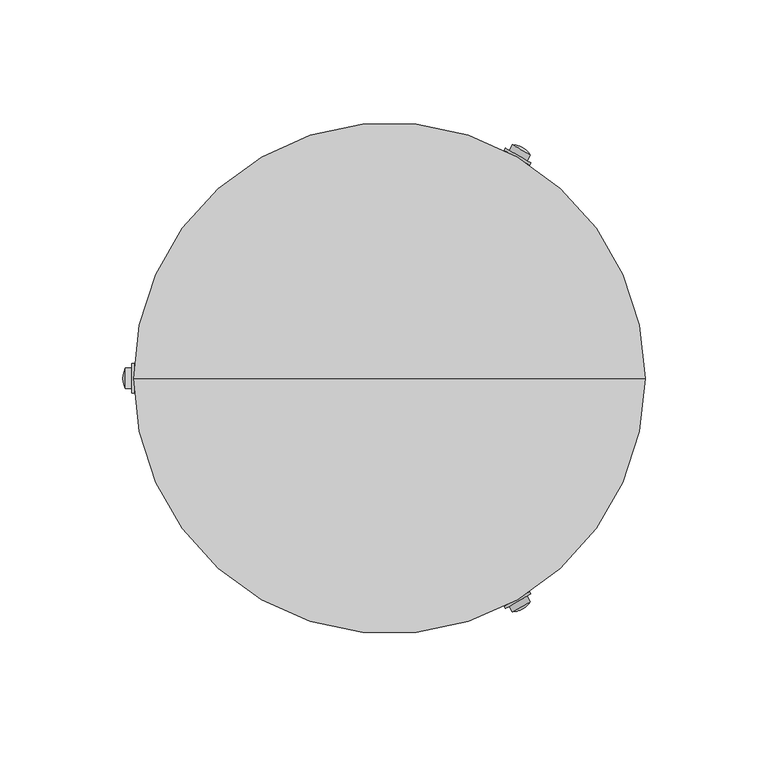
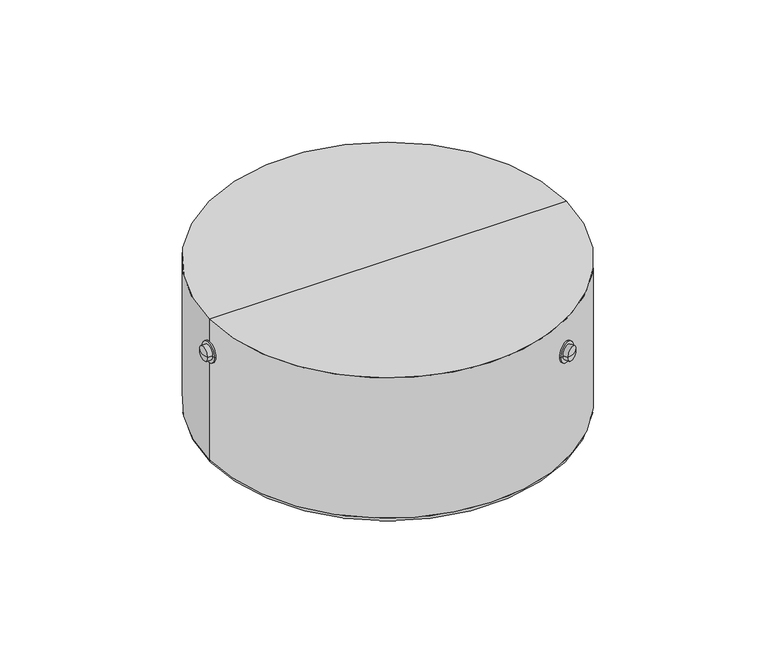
"""IFC4 building model written with IfcOpenShell, lengths in millimetres: proxy geometry, DL-A 10-200T-EN54 : DL-A 10-200/T-EN54."""

from ifc_helpers import new_model, si_unit, point, frame, origin, place, context, project, spatial, polyline, circle_curve, ellipse_curve, trimmed, source, transform, mapped, element, save
from ifc_brep_helpers import plane_surface, cylinder_surface, revolved_surface, advanced_brep


def communication_devices_0a137ea0(model_context):
    return source(origin(), model_context, "Body", "AdvancedBrep", [
        advanced_brep(
        [(0.0, 0.0, -81.5), (-97.5, 0.0, -81.5), (97.5, 0.0, -81.5), (-97.5, 0.0, -79.5), (97.5, 0.0, -79.5), (0.0, 0.0, -79.5)],
        [
            (0, 1),
            (1, 2, circle_curve(frame((0.0, 0.0, -81.5), z_axis=(0.0, 0.0, -1.0), x_axis=(-1.0, 0.0, 0.0)), 97.5)),
            (2, 0),
            (2, 1, circle_curve(frame((0.0, 0.0, -81.5), z_axis=(0.0, 0.0, -1.0), x_axis=(-1.0, 0.0, 0.0)), 97.5)),
            (1, 3),
            (3, 4, circle_curve(frame((0.0, 0.0, -79.5), z_axis=(0.0, 0.0, -1.0), x_axis=(-1.0, 0.0, 0.0)), 97.5)),
            (4, 2),
            (4, 3, circle_curve(frame((0.0, 0.0, -79.5), z_axis=(0.0, 0.0, -1.0), x_axis=(-1.0, 0.0, 0.0)), 97.5)),
            (3, 5),
            (5, 4),
        ],
        [
            plane_surface(frame((0.0, 0.0, -81.5), z_axis=(0.0, 0.0, -1.0), x_axis=(-1.0, 0.0, 0.0))),
            cylinder_surface(frame((0.0, 0.0, 33.0), z_axis=(0.0, 0.0, -1.0), x_axis=(-1.0, 0.0, 0.0)), 97.5),
            plane_surface(frame((0.0, 0.0, -79.5), z_axis=(0.0, 0.0, 1.0), x_axis=(-1.0, 0.0, 0.0))),
        ],
        [
            (0, [[1, 2, 3]]),
            (0, [[-3, 4, -1]]),
            (1, [[-2, 5, 6, 7]]),
            (1, [[-4, -7, 8, -5]]),
            (2, [[-6, 9, 10]]),
            (2, [[-8, -10, -9]]),
        ],
    ),
        advanced_brep(
        [(-104.6999978, 4.200004, -20.0), (-104.6999978, -4.2000002, -20.0), (-107.3608149, -4.2000002, -20.0), (-107.3608149, 4.200004, -20.0), (-104.6999978, 5.9961256, -20.0), (-104.6999978, -5.9961219, -20.0), (-103.6999978, 5.9961256, -20.0), (-103.6999978, -5.9961219, -20.0), (-103.6999978, 1.9e-06, -20.0), (-108.3608121, 1.9e-06, -20.0)],
        [
            (0, 1, circle_curve(frame((-104.6999978, 1.9e-06, -20.0), z_axis=(-1.0, 0.0, 0.0), x_axis=(0.0, -1.0, 0.0)), 4.2000021)),
            (1, 2),
            (2, 3, circle_curve(frame((-107.3608149, 1.9e-06, -20.0), z_axis=(1.0, 0.0, 0.0), x_axis=(0.0, -1.0, 0.0)), 4.2000021)),
            (3, 0),
            (1, 0, circle_curve(frame((-104.6999978, 1.9e-06, -20.0), z_axis=(-1.0, 0.0, 0.0), x_axis=(0.0, -1.0, 0.0)), 4.2000021)),
            (3, 2, circle_curve(frame((-107.3608149, 1.9e-06, -20.0), z_axis=(1.0, 0.0, 0.0), x_axis=(0.0, -1.0, 0.0)), 4.2000021)),
            (4, 5, circle_curve(frame((-104.6999978, 1.9e-06, -20.0), z_axis=(-1.0, 0.0, 0.0), x_axis=(0.0, -1.0, 0.0)), 5.9961237)),
            (5, 1),
            (0, 4),
            (5, 4, circle_curve(frame((-104.6999978, 1.9e-06, -20.0), z_axis=(-1.0, 0.0, 0.0), x_axis=(0.0, -1.0, 0.0)), 5.9961237)),
            (6, 7, circle_curve(frame((-103.6999978, 1.9e-06, -20.0), z_axis=(-1.0, 0.0, 0.0), x_axis=(0.0, -1.0, 0.0)), 5.9961237)),
            (7, 5),
            (4, 6),
            (7, 6, circle_curve(frame((-103.6999978, 1.9e-06, -20.0), z_axis=(-1.0, 0.0, 0.0), x_axis=(0.0, -1.0, 0.0)), 5.9961237)),
            (8, 7),
            (6, 8),
            (2, 9, circle_curve(frame((-99.0407799, 1.9e-06, -20.0), z_axis=(0.0, 0.0, -1.0), x_axis=(-0.5000000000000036, 0.8660254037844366, 0.0)), 9.3200322)),
            (9, 3, circle_curve(frame((-99.0407799, 1.9e-06, -20.0), z_axis=(0.0, 0.0, -1.0), x_axis=(-0.49999999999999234, -0.866025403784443, 0.0)), 9.3200322)),
        ],
        [
            cylinder_surface(frame((-109.2688725, 1.9e-06, -20.0), z_axis=(1.0, 0.0, 0.0), x_axis=(0.0, -1.0, 0.0)), 4.2000021),
            plane_surface(frame((-104.6999978, 1.9e-06, -20.0), z_axis=(-1.0, 0.0, 0.0), x_axis=(0.0, -1.0, 0.0))),
            cylinder_surface(frame((-109.2688725, 1.9e-06, -20.0), z_axis=(1.0, 0.0, 0.0), x_axis=(0.0, -1.0, 0.0)), 5.9961237),
            plane_surface(frame((-103.6999978, 1.9e-06, -20.0), z_axis=(1.0, 0.0, 0.0), x_axis=(0.0, -1.0, 0.0))),
            revolved_surface(trimmed(ellipse_curve(frame((-99.0407799, 1.9e-06, -20.0), z_axis=(0.0, 0.0, 1.0), x_axis=(-0.5000000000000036, 0.8660254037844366, 0.0)), 9.3200322, 9.3200322), [point((-108.3608121, 1.9e-06, -20.0))], [point((-107.3608149, -4.2000002, -20.0))], True, "CARTESIAN"), (-109.2688725, 1.9e-06, -20.0), (1.0, 0.0, 0.0)),
        ],
        [
            (0, [[1, 2, 3, 4]]),
            (0, [[5, -4, 6, -2]]),
            (1, [[7, 8, -1, 9]]),
            (1, [[10, -9, -5, -8]]),
            (2, [[11, 12, -7, 13]]),
            (2, [[14, -13, -10, -12]]),
            (3, [[15, -11, 16]]),
            (3, [[-16, -14, -15]]),
            (4, [[-3, 17, 18]]),
            (4, [[-6, -18, -17]]),
        ],
    ),
        advanced_brep(
        [(48.7126888, -92.7728599, -20.0), (55.9873058, -88.5728578, -20.0), (57.3177144, -90.877193, -20.0), (50.0430973, -95.0771951, -20.0), (47.1572018, -93.6709207, -20.0), (57.5427928, -87.6747969, -20.0), (46.6572018, -92.8048953, -20.0), (57.0427928, -86.8087715, -20.0), (51.8499973, -89.8068334, -20.0), (54.1804044, -93.843217, -20.0)],
        [
            (0, 1, circle_curve(frame((52.3499973, -90.6728588, -20.0), z_axis=(0.5000000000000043, -0.8660254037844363, 0.0), x_axis=(0.8660254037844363, 0.5000000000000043, 0.0)), 4.2000021)),
            (1, 2),
            (2, 3, circle_curve(frame((53.6804058, -92.977194, -20.0), z_axis=(-0.5000000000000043, 0.8660254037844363, 0.0), x_axis=(0.8660254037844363, 0.5000000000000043, 0.0)), 4.2000021)),
            (3, 0),
            (1, 0, circle_curve(frame((52.3499973, -90.6728588, -20.0), z_axis=(0.5000000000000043, -0.8660254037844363, 0.0), x_axis=(0.8660254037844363, 0.5000000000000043, 0.0)), 4.2000021)),
            (3, 2, circle_curve(frame((53.6804058, -92.977194, -20.0), z_axis=(-0.5000000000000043, 0.8660254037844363, 0.0), x_axis=(0.8660254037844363, 0.5000000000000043, 0.0)), 4.2000021)),
            (4, 5, circle_curve(frame((52.3499973, -90.6728588, -20.0), z_axis=(0.5000000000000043, -0.8660254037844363, 0.0), x_axis=(0.8660254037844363, 0.5000000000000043, 0.0)), 5.9961237)),
            (5, 1),
            (0, 4),
            (5, 4, circle_curve(frame((52.3499973, -90.6728588, -20.0), z_axis=(0.5000000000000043, -0.8660254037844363, 0.0), x_axis=(0.8660254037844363, 0.5000000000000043, 0.0)), 5.9961237)),
            (6, 7, circle_curve(frame((51.8499973, -89.8068334, -20.0), z_axis=(0.5000000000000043, -0.8660254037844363, 0.0), x_axis=(0.8660254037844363, 0.5000000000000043, 0.0)), 5.9961237)),
            (7, 5),
            (4, 6),
            (7, 6, circle_curve(frame((51.8499973, -89.8068334, -20.0), z_axis=(0.5000000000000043, -0.8660254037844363, 0.0), x_axis=(0.8660254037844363, 0.5000000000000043, 0.0)), 5.9961237)),
            (8, 7),
            (6, 8),
            (2, 9, circle_curve(frame((49.5203883, -85.7718323, -20.0), z_axis=(0.0, 0.0, -1.0), x_axis=(-0.49999999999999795, -0.8660254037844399, 0.0)), 9.3200322)),
            (9, 3, circle_curve(frame((49.5203883, -85.7718323, -20.0), z_axis=(0.0, 0.0, -1.0), x_axis=(1.0, 0.0, 0.0)), 9.3200322)),
        ],
        [
            cylinder_surface(frame((54.6344346, -94.6296204, -20.0), z_axis=(-0.5000000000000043, 0.8660254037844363, 0.0), x_axis=(0.8660254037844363, 0.5000000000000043, 0.0)), 4.2000021),
            plane_surface(frame((52.3499973, -90.6728588, -20.0), z_axis=(0.5000000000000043, -0.8660254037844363, 0.0), x_axis=(0.8660254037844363, 0.5000000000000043, 0.0))),
            cylinder_surface(frame((54.6344346, -94.6296204, -20.0), z_axis=(-0.5000000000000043, 0.8660254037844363, 0.0), x_axis=(0.8660254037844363, 0.5000000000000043, 0.0)), 5.9961237),
            plane_surface(frame((51.8499973, -89.8068334, -20.0), z_axis=(-0.5000000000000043, 0.8660254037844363, 0.0), x_axis=(0.8660254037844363, 0.5000000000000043, 0.0))),
            revolved_surface(trimmed(ellipse_curve(frame((49.5203883, -85.7718323, -20.0), z_axis=(0.0, 0.0, 1.0), x_axis=(-0.49999999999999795, -0.8660254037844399, 0.0)), 9.3200322, 9.3200322), [point((54.1804044, -93.843217, -20.0))], [point((57.3177144, -90.877193, -20.0))], True, "CARTESIAN"), (54.6344346, -94.6296204, -20.0), (-0.5000000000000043, 0.8660254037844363, 0.0)),
        ],
        [
            (0, [[1, 2, 3, 4]]),
            (0, [[5, -4, 6, -2]]),
            (1, [[7, 8, -1, 9]]),
            (1, [[10, -9, -5, -8]]),
            (2, [[11, 12, -7, 13]]),
            (2, [[14, -13, -10, -12]]),
            (3, [[15, -11, 16]]),
            (3, [[-16, -14, -15]]),
            (4, [[-3, 17, 18]]),
            (4, [[-6, -18, -17]]),
        ],
    ),
        advanced_brep(
        [(55.9873091, 88.5728559, -20.0), (48.712692, 92.772858, -20.0), (50.0431005, 95.0771932, -20.0), (57.3177176, 90.8771911, -20.0), (57.542796, 87.6747951, -20.0), (47.157205, 93.6709188, -20.0), (57.042796, 86.8087697, -20.0), (46.657205, 92.8048934, -20.0), (51.8500005, 89.8068315, -20.0), (54.1804077, 93.8432151, -20.0)],
        [
            (0, 1, circle_curve(frame((52.3500005, 90.6728569, -20.0), z_axis=(0.499999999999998, 0.86602540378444, 0.0), x_axis=(-0.8660254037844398, 0.4999999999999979, 0.0)), 4.2000021)),
            (1, 2),
            (2, 3, circle_curve(frame((53.6804091, 92.9771921, -20.0), z_axis=(-0.499999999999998, -0.86602540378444, 0.0), x_axis=(-0.8660254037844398, 0.4999999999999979, 0.0)), 4.2000021)),
            (3, 0),
            (1, 0, circle_curve(frame((52.3500005, 90.6728569, -20.0), z_axis=(0.499999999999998, 0.86602540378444, 0.0), x_axis=(-0.8660254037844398, 0.4999999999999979, 0.0)), 4.2000021)),
            (3, 2, circle_curve(frame((53.6804091, 92.9771921, -20.0), z_axis=(-0.499999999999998, -0.86602540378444, 0.0), x_axis=(-0.8660254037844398, 0.4999999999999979, 0.0)), 4.2000021)),
            (4, 5, circle_curve(frame((52.3500005, 90.6728569, -20.0), z_axis=(0.499999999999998, 0.86602540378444, 0.0), x_axis=(-0.8660254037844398, 0.4999999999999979, 0.0)), 5.9961237)),
            (5, 1),
            (0, 4),
            (5, 4, circle_curve(frame((52.3500005, 90.6728569, -20.0), z_axis=(0.499999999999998, 0.86602540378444, 0.0), x_axis=(-0.8660254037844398, 0.4999999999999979, 0.0)), 5.9961237)),
            (6, 7, circle_curve(frame((51.8500005, 89.8068315, -20.0), z_axis=(0.499999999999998, 0.86602540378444, 0.0), x_axis=(-0.8660254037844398, 0.4999999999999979, 0.0)), 5.9961237)),
            (7, 5),
            (4, 6),
            (7, 6, circle_curve(frame((51.8500005, 89.8068315, -20.0), z_axis=(0.499999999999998, 0.86602540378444, 0.0), x_axis=(-0.8660254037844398, 0.4999999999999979, 0.0)), 5.9961237)),
            (8, 7),
            (6, 8),
            (2, 9, circle_curve(frame((49.5203915, 85.7718304, -20.0), z_axis=(0.0, 0.0, -1.0000000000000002), x_axis=(1.0, 0.0, 0.0)), 9.3200322)),
            (9, 3, circle_curve(frame((49.5203915, 85.7718304, -20.0), z_axis=(0.0, 0.0, -1.0000000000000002), x_axis=(-0.5000000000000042, 0.8660254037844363, 0.0)), 9.3200322)),
        ],
        [
            cylinder_surface(frame((54.6344379, 94.6296185, -20.0), z_axis=(-0.4999999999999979, -0.8660254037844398, 0.0), x_axis=(-0.8660254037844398, 0.4999999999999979, 0.0)), 4.2000021),
            plane_surface(frame((52.3500005, 90.6728569, -20.0), z_axis=(0.49999999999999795, 0.8660254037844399, 0.0), x_axis=(-0.8660254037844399, 0.49999999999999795, 0.0))),
            cylinder_surface(frame((54.6344379, 94.6296185, -20.0), z_axis=(-0.4999999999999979, -0.8660254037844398, 0.0), x_axis=(-0.8660254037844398, 0.4999999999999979, 0.0)), 5.9961237),
            plane_surface(frame((51.8500005, 89.8068315, -20.0), z_axis=(-0.49999999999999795, -0.8660254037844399, 0.0), x_axis=(-0.8660254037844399, 0.49999999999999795, 0.0))),
            revolved_surface(trimmed(ellipse_curve(frame((49.5203915, 85.7718304, -20.0), z_axis=(0.0, 0.0, 1.0000000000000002), x_axis=(1.0, 0.0, 0.0)), 9.3200322, 9.3200322), [point((54.1804077, 93.8432151, -20.0))], [point((50.0431005, 95.0771932, -20.0))], True, "CARTESIAN"), (54.6344379, 94.6296185, -20.0), (-0.4999999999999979, -0.8660254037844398, 0.0)),
        ],
        [
            (0, [[1, 2, 3, 4]]),
            (0, [[5, -4, 6, -2]]),
            (1, [[7, 8, -1, 9]]),
            (1, [[10, -9, -5, -8]]),
            (2, [[11, 12, -7, 13]]),
            (2, [[14, -13, -10, -12]]),
            (3, [[15, -11, 16]]),
            (3, [[-16, -14, -15]]),
            (4, [[-3, 17, 18]]),
            (4, [[-6, -18, -17]]),
        ],
    ),
        advanced_brep(
        [(0.0, 0.0, -89.5), (-97.5, 0.0, -89.5), (97.5, 0.0, -89.5), (-97.5, 0.0, -87.5), (97.5, 0.0, -87.5), (0.0, 0.0, -87.5)],
        [
            (0, 1),
            (1, 2, circle_curve(frame((0.0, 0.0, -89.5), z_axis=(0.0, 0.0, -1.0), x_axis=(-1.0, 0.0, 0.0)), 97.5)),
            (2, 0),
            (2, 1, circle_curve(frame((0.0, 0.0, -89.5), z_axis=(0.0, 0.0, -1.0), x_axis=(-1.0, 0.0, 0.0)), 97.5)),
            (1, 3),
            (3, 4, circle_curve(frame((0.0, 0.0, -87.5), z_axis=(0.0, 0.0, -1.0), x_axis=(-1.0, 0.0, 0.0)), 97.5)),
            (4, 2),
            (4, 3, circle_curve(frame((0.0, 0.0, -87.5), z_axis=(0.0, 0.0, -1.0), x_axis=(-1.0, 0.0, 0.0)), 97.5)),
            (3, 5),
            (5, 4),
        ],
        [
            plane_surface(frame((0.0, 0.0, -89.5), z_axis=(0.0, 0.0, -1.0), x_axis=(-1.0, 0.0, 0.0))),
            cylinder_surface(frame((0.0, 0.0, 25.0), z_axis=(0.0, 0.0, -1.0), x_axis=(-1.0, 0.0, 0.0)), 97.5),
            plane_surface(frame((0.0, 0.0, -87.5), z_axis=(0.0, 0.0, 1.0), x_axis=(-1.0, 0.0, 0.0))),
        ],
        [
            (0, [[1, 2, 3]]),
            (0, [[-3, 4, -1]]),
            (1, [[-2, 5, 6, 7]]),
            (1, [[-4, -7, 8, -5]]),
            (2, [[-6, 9, 10]]),
            (2, [[-8, -10, -9]]),
        ],
    ),
        advanced_brep(
        [(104.0, 0.0, -86.5), (-104.0, 0.0, -86.5), (-104.0, 0.0, 0.0), (104.0, 0.0, 0.0), (101.0, 0.0, -89.5), (-101.0, 0.0, -89.5), (97.5, 0.0, -89.5), (-97.5, 0.0, -89.5), (0.0, 0.0, 0.0), (97.5, 0.0, -79.5), (-97.5, 0.0, -79.5), (0.0, 0.0, -79.5)],
        [
            (0, 1, circle_curve(frame((0.0, 0.0, -86.5), z_axis=(0.0, 0.0, 1.0), x_axis=(-1.0, 0.0, 0.0)), 104.0)),
            (1, 2),
            (2, 3, circle_curve(frame((0.0, 0.0, 0.0), z_axis=(0.0, 0.0, -1.0), x_axis=(-1.0, 0.0, 0.0)), 104.0)),
            (3, 0),
            (1, 0, circle_curve(frame((0.0, 0.0, -86.5), z_axis=(0.0, 0.0, 1.0), x_axis=(-1.0, 0.0, 0.0)), 104.0)),
            (3, 2, circle_curve(frame((0.0, 0.0, 0.0), z_axis=(0.0, 0.0, -1.0), x_axis=(-1.0, 0.0, 0.0)), 104.0)),
            (4, 5, circle_curve(frame((0.0, 0.0, -89.5), z_axis=(0.0, 0.0, 1.0), x_axis=(-1.0, 0.0, 0.0)), 101.0)),
            (5, 1, circle_curve(frame((-101.0, 0.0, -86.5), z_axis=(0.0, 1.0, 0.0), x_axis=(1.0, 0.0, 0.0)), 3.0)),
            (0, 4, circle_curve(frame((101.0, 0.0, -86.5), z_axis=(0.0, 1.0, 0.0), x_axis=(-1.0, 0.0, 0.0)), 3.0)),
            (5, 4, circle_curve(frame((0.0, 0.0, -89.5), z_axis=(0.0, 0.0, 1.0), x_axis=(-1.0, 0.0, 0.0)), 101.0)),
            (6, 7, circle_curve(frame((0.0, 0.0, -89.5), z_axis=(0.0, 0.0, 1.0), x_axis=(-1.0, 0.0, 0.0)), 97.5)),
            (7, 5),
            (4, 6),
            (7, 6, circle_curve(frame((0.0, 0.0, -89.5), z_axis=(0.0, 0.0, 1.0), x_axis=(-1.0, 0.0, 0.0)), 97.5)),
            (2, 8),
            (8, 3),
            (9, 10, circle_curve(frame((0.0, 0.0, -79.5), z_axis=(0.0, 0.0, 1.0), x_axis=(-1.0, 0.0, 0.0)), 97.5)),
            (10, 7),
            (6, 9),
            (10, 9, circle_curve(frame((0.0, 0.0, -79.5), z_axis=(0.0, 0.0, 1.0), x_axis=(-1.0, 0.0, 0.0)), 97.5)),
            (11, 10),
            (9, 11),
        ],
        [
            cylinder_surface(frame((0.0, 0.0, 25.0), z_axis=(0.0, 0.0, -1.0), x_axis=(-1.0, 0.0, 0.0)), 104.0),
            revolved_surface(trimmed(ellipse_curve(frame((-101.0, 0.0, -86.5), z_axis=(0.0, -1.0, 0.0), x_axis=(1.0, 0.0, 0.0)), 3.0, 3.0), [point((-104.0, 0.0, -86.5))], [point((-101.0, 0.0, -89.5))], True, "CARTESIAN"), (0.0, 0.0, 25.0), (0.0, 0.0, -1.0)),
            plane_surface(frame((0.0, 0.0, -89.5), z_axis=(0.0, 0.0, -1.0), x_axis=(-1.0, 0.0, 0.0))),
            plane_surface(frame((0.0, 0.0, 0.0), z_axis=(0.0, 0.0, 1.0), x_axis=(-1.0, 0.0, 0.0))),
            revolved_surface(polyline([(-97.5, 0.0, -89.5), (-97.5, 0.0, -79.5)]), (0.0, 0.0, 25.0), (0.0, 0.0, -1.0)),
            plane_surface(frame((0.0, 0.0, -79.5), z_axis=(0.0, 0.0, -1.0), x_axis=(-1.0, 0.0, 0.0))),
        ],
        [
            (0, [[1, 2, 3, 4]]),
            (0, [[5, -4, 6, -2]]),
            (1, [[7, 8, -1, 9]]),
            (1, [[10, -9, -5, -8]]),
            (2, [[11, 12, -7, 13]]),
            (2, [[14, -13, -10, -12]]),
            (3, [[-3, 15, 16]]),
            (3, [[-6, -16, -15]]),
            (4, [[17, 18, -11, 19]]),
            (4, [[20, -19, -14, -18]]),
            (5, [[21, -17, 22]]),
            (5, [[-22, -20, -21]]),
        ],
    ),
    ])


if __name__ == "__main__":
    model = new_model("IFC4")
    model_context = context("Model", 3, world=origin())
    ifc_project = project(units=[si_unit("LENGTHUNIT", "METRE", prefix="MILLI")], contexts=[model_context])
    site = spatial("IfcSite", under=ifc_project)
    building = spatial("IfcBuilding", under=site)
    placement = place(None, origin())
    communication_devices_shape = communication_devices_0a137ea0(model_context)
    element("IfcBuildingElementProxy", 1, Name="DL-A 10-200T-EN54 : DL-A 10-200/T-EN54", ObjectType="DL-A 10-200T-EN54 : DL-A 10-200/T-EN54", at=placement, inside=building, context=model_context, shape_type="MappedRepresentation", body=[
        mapped(communication_devices_shape, transform((0.0, 0.0, 0.0), x_axis=(1.0, 0.0, 0.0), y_axis=(0.0, 1.0, 0.0), z_axis=(0.0, 0.0, 1.0))),
    ])
    save(model, "model.ifc")
